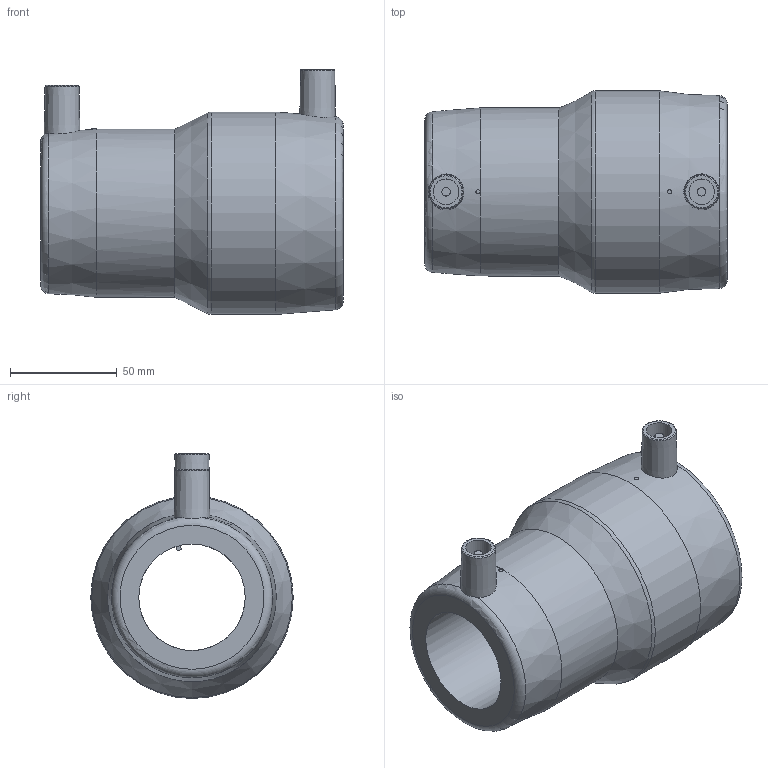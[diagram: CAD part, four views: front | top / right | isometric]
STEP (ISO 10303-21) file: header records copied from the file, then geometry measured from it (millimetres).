
FILE_DESCRIPTION(/* description */ ('Unknown'),/* implementation_level */ '2;1');
FILE_NAME(/* name */ 'REP075050C',/* time_stamp */ '2021-05-25T17:42:54+02:00',/* author */ ('Unknown'),/* organization */ ('Unknown'),/* preprocessor_version */ 'ST-DEVELOPER v16.7',/* originating_system */ 'Solid Edge',/* authorisation */ 'Unknown');
FILE_SCHEMA (('AUTOMOTIVE_DESIGN {1 0 10303 214 3 1 1}'));
Length unit declared in the file: millimetre
Products named in the file (1): REP075050C
Bounding box: 142 x 95 x 115 mm (x, y, z)
Volume: 389519.9 mm3; surface area: 74415 mm2
Topology: 1 solids, 1 shells, 36 faces, 79 edges, 49 vertices
Faces by surface type: plane 15, cylinder 10, cone 6, torus 5
Full cylindrical faces by diameter (mm): 2 x2, 4 x2, 12 x2, 50 x1, 75 x1, 79 x1, 95 x1
Entity records: 847 total; most frequent: CARTESIAN_POINT 178, DIRECTION 142, ORIENTED_EDGE 90, AXIS2_PLACEMENT_3D 66, EDGE_LOOP 64, FACE_BOUND 64, EDGE_CURVE 45, VERTEX_POINT 37
